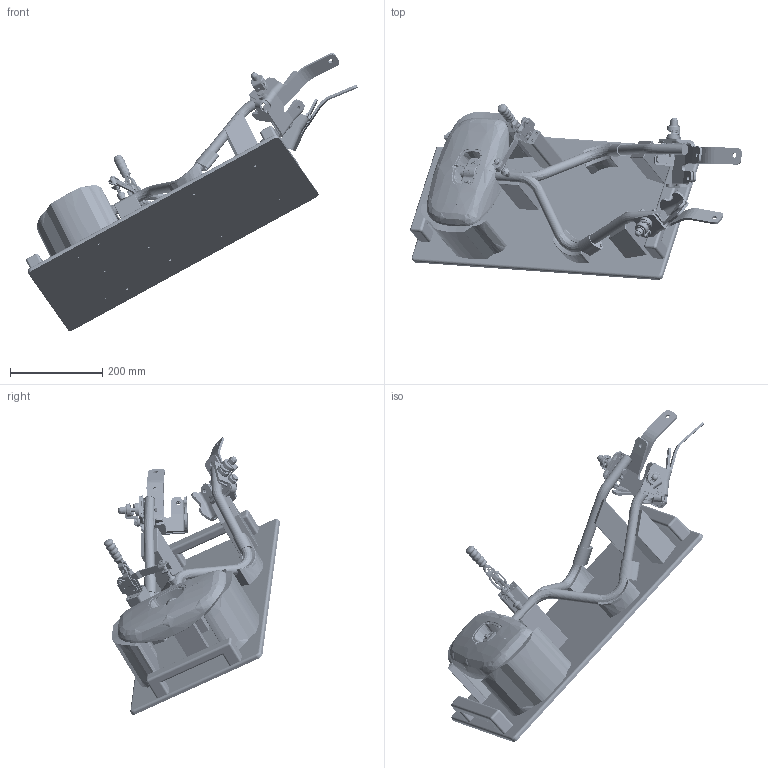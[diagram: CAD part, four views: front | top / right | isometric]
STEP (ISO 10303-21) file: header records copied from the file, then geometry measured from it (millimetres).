
FILE_DESCRIPTION(('CATIA V5 STEP Exchange','CAx-IF Rec.Pracs.--- Composite Materials ---3.4---2017-06-13'),'2;1');
FILE_NAME('D:\Users\46830\Desktop\volvo\装配工装\10.21\volvo前下镜装配工装\镜壳装配工装.stp','2025-10-24T03:35:10+00:00',('none'),('none'),'CATIA Version 5-6 Release 2021 SP7','CATIA V5 STEP AP203 v2','none');
FILE_SCHEMA(('CONFIG_CONTROL_DESIGN'));
Products named in the file (1): jingkegongzhuang
Assembly tree (7 placements, depth 2):
  jingkegongzhuang
    #57
    #97016
    #131865
    #162614
    #190462
    #263328
    #353424
Bounding box: 719.8 x 382.06 x 603.06 mm (x, y, z)
Volume: 5925241.1 mm3; surface area: 1587300 mm2
Topology: 116 solids, 116 shells, 7534 faces, 22787 edges, 15506 vertices
Faces by surface type: plane 2791, cylinder 1999, bspline 1584, cone 487, torus 373, extrusion 201, sphere 67, revolution 32
Entity records: 352357 total; most frequent: CARTESIAN_POINT 179686, ORIENTED_EDGE 45362, EDGE_CURVE 22681, DIRECTION 21220, VERTEX_POINT 15483, B_SPLINE_CURVE_WITH_KNOTS 9865, AXIS2_PLACEMENT_3D 8528, VECTOR 8066
